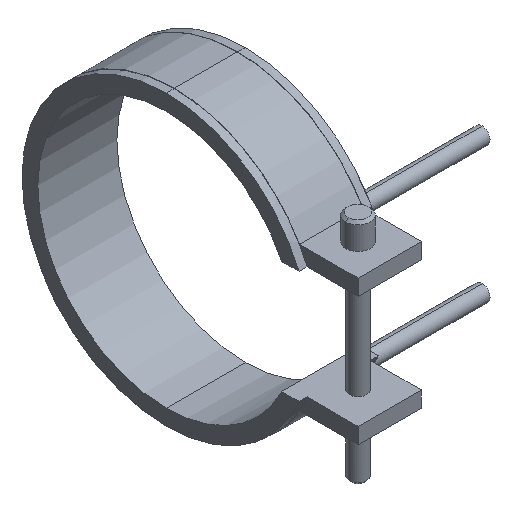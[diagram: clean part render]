
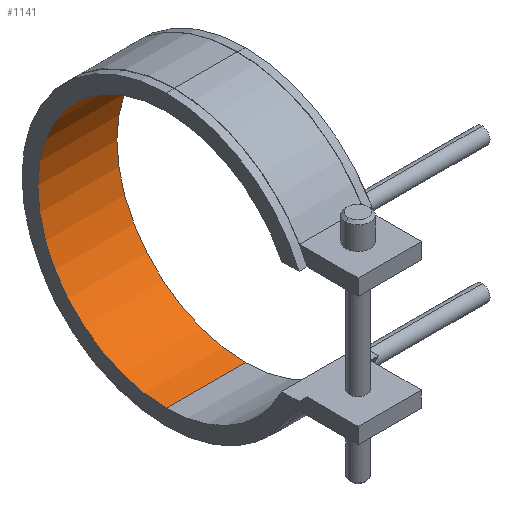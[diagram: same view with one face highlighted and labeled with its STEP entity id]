
A CAD part, isometric view. The second image highlights one B-rep face of the part: STEP entity #1141.
In plain terms, the highlighted cylindrical face has radius 32.5 mm (diameter 65 mm), a partial arc.
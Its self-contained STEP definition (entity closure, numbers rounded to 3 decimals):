
#822=CARTESIAN_POINT('Vertex',(-10.,0.,-32.5)) ;
#829=CARTESIAN_POINT('Vertex',(10.,0.,-32.5)) ;
#832=CARTESIAN_POINT('Line Origine',(10.,0.,-32.5)) ;
#850=CARTESIAN_POINT('Axis2P3D Location',(-10.,0.,0.)) ;
#854=CARTESIAN_POINT('Vertex',(-10.,0.,32.5)) ;
#911=CARTESIAN_POINT('Vertex',(10.,0.,32.5)) ;
#921=CARTESIAN_POINT('Line Origine',(10.,0.,32.5)) ;
#1012=CARTESIAN_POINT('Axis2P3D Location',(10.,0.,0.)) ;
#1130=CARTESIAN_POINT('Axis2P3D Location',(10.,0.,0.)) ;
#833=DIRECTION('Vector Direction',(1.,0.,0.)) ;
#851=DIRECTION('Axis2P3D Direction',(1.,0.,0.)) ;
#922=DIRECTION('Vector Direction',(1.,0.,0.)) ;
#1013=DIRECTION('Axis2P3D Direction',(1.,0.,0.)) ;
#1131=DIRECTION('Axis2P3D Direction',(1.,0.,-0.)) ;
#1132=DIRECTION('Axis2P3D XDirection',(0.,0.,-1.)) ;
#852=AXIS2_PLACEMENT_3D('Circle Axis2P3D',#850,#851,$) ;
#1014=AXIS2_PLACEMENT_3D('Circle Axis2P3D',#1012,#1013,$) ;
#1133=AXIS2_PLACEMENT_3D('Cylinder Axis2P3D',#1130,#1131,#1132) ;
#1136=ORIENTED_EDGE('',*,*,#1016,.T.) ;
#1137=ORIENTED_EDGE('',*,*,#925,.T.) ;
#1138=ORIENTED_EDGE('',*,*,#856,.F.) ;
#1139=ORIENTED_EDGE('',*,*,#836,.T.) ;
#834=VECTOR('Line Direction',#833,1.) ;
#923=VECTOR('Line Direction',#922,1.) ;
#1141=ADVANCED_FACE('14065020',(#1140),#1134,.F.) ;
#853=CIRCLE('generated circle',#852,32.5) ;
#1015=CIRCLE('generated circle',#1014,32.5) ;
#1134=CYLINDRICAL_SURFACE('generated cylinder',#1133,32.5) ;
#836=EDGE_CURVE('',#823,#830,#835,.T.) ;
#856=EDGE_CURVE('',#823,#855,#853,.T.) ;
#925=EDGE_CURVE('',#912,#855,#924,.F.) ;
#1016=EDGE_CURVE('',#830,#912,#1015,.T.) ;
#1135=EDGE_LOOP('',(#1136,#1137,#1138,#1139)) ;
#1140=FACE_OUTER_BOUND('',#1135,.T.) ;
#835=LINE('Line',#832,#834) ;
#924=LINE('Line',#921,#923) ;
#823=VERTEX_POINT('',#822) ;
#830=VERTEX_POINT('',#829) ;
#855=VERTEX_POINT('',#854) ;
#912=VERTEX_POINT('',#911) ;
